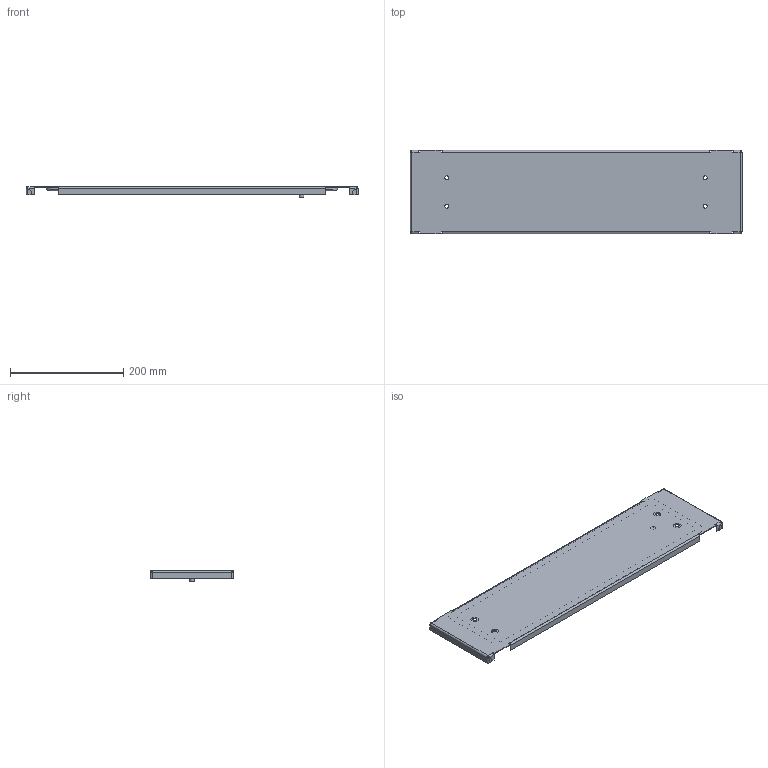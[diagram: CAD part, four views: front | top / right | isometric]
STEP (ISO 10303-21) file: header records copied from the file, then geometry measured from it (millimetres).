
FILE_DESCRIPTION(('STEP AP203'), '1');
FILE_NAME('Ïàíåëü ëèöåâàÿ ãëóõàÿ 150õ600 ìì OptiBox M 419469 ÊÝÀÇ', '', ('UNSPECIFIED'), ('UNSPECIFIED'), 'C3D Converter', 'C3D Toolkit', '');
FILE_SCHEMA(('CONFIG_CONTROL_DESIGN'));
Length unit declared in the file: millimetre
Bounding box: 586.4 x 147 x 18.9 mm (x, y, z)
Volume: 217990.2 mm3; surface area: 244539.9 mm2
Topology: 3 solids, 3 shells, 168 faces, 385 edges, 230 vertices
Faces by surface type: plane 109, cylinder 51, bspline 8
Full cylindrical faces by diameter (mm): 0.75 x1, 1 x1, 5 x2, 7.3 x4, 8 x1, 9.3 x1, 13 x1, 13.5 x4
Entity records: 6904 total; most frequent: CARTESIAN_POINT 1897, ORIENTED_EDGE 740, DIRECTION 726, EDGE_CURVE 370, LINE 264, VECTOR 264, AXIS2_PLACEMENT_3D 231, VERTEX_POINT 230
